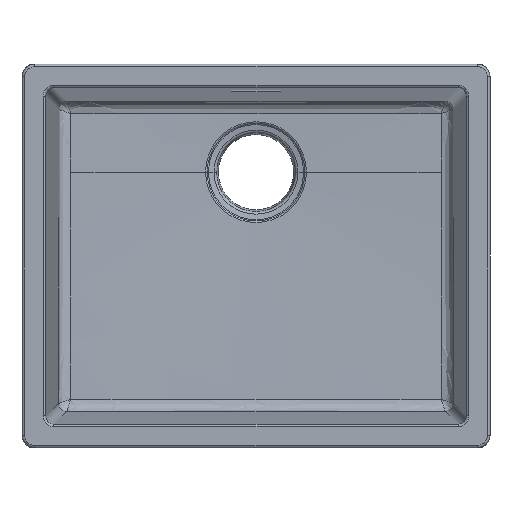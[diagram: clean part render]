
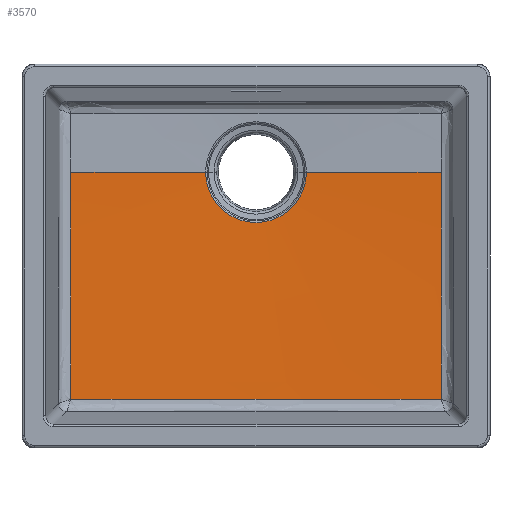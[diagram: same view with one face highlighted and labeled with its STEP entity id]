
A CAD part, top view. The second image highlights one B-rep face of the part: STEP entity #3570.
In plain terms, the highlighted conical face has half-angle 88.2 degrees and reference radius 50 mm.
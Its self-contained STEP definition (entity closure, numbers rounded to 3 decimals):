
#19 = B_SPLINE_CURVE_WITH_KNOTS ( 'NONE', 3,
 ( #7606, #12040, #13712, #4882, #6381, #16492, #9021, #13459, #14945, #13584 ),
 .UNSPECIFIED., .F., .F.,
 ( 4, 2, 2, 2, 4 ),
 ( 0.07, 0.137, 0.205, 0.272, 0.34 ),
 .UNSPECIFIED. ) ;
#621 = VERTEX_POINT ( 'NONE', #10662 ) ;
#794 = FACE_OUTER_BOUND ( 'NONE', #17955, .T. ) ;
#812 = LINE ( 'NONE', #11466, #1746 ) ;
#1033 = CARTESIAN_POINT ( 'NONE',  ( 219.984, -57.642, -187.089 ) ) ;
#1431 = CARTESIAN_POINT ( 'NONE',  ( -91.721, -170.088, -186.625 ) ) ;
#1455 = VERTEX_POINT ( 'NONE', #8321 ) ;
#1503 = EDGE_CURVE ( 'NONE', #1455, #17019, #11625, .T. ) ;
#1645 = DIRECTION ( 'NONE',  ( 1., 0., 0. ) ) ;
#1746 = VECTOR ( 'NONE', #16795, 1000. ) ;
#2058 = AXIS2_PLACEMENT_3D ( 'NONE', #14880, #7604, #1645 ) ;
#2258 = EDGE_CURVE ( 'NONE', #621, #17019, #812, .T. ) ;
#2275 = CARTESIAN_POINT ( 'NONE',  ( 0., 99.94, -193.69 ) ) ;
#2433 = CARTESIAN_POINT ( 'NONE',  ( 220.003, -80.151, -186.652 ) ) ;
#2508 = CARTESIAN_POINT ( 'NONE',  ( 220.081, -147.675, -185.17 ) ) ;
#2537 = ORIENTED_EDGE ( 'NONE', *, *, #2258, .F. ) ;
#2657 = CONICAL_SURFACE ( 'NONE', #2058, 50., 1.539 ) ;
#2721 = CARTESIAN_POINT ( 'NONE',  ( 146.749, -170.114, -185.972 ) ) ;
#2976 = B_SPLINE_CURVE_WITH_KNOTS ( 'NONE', 3,
 ( #10876, #16142, #10087, #1431, #11764, #5629, #8595, #14717, #11563, #5891, #18880, #2721, #4206, #19016 ),
 .UNSPECIFIED., .F., .F.,
 ( 4, 2, 2, 2, 2, 2, 4 ),
 ( 0., 0.11, 0.165, 0.22, 0.275, 0.33, 0.44 ),
 .UNSPECIFIED. ) ;
#3570 = ADVANCED_FACE ( 'NONE', ( #794 ), #2657, .F. ) ;
#3596 = CARTESIAN_POINT ( 'NONE',  ( 219.935, 99.94, -188.66 ) ) ;
#3708 = VERTEX_POINT ( 'NONE', #15235 ) ;
#3993 = CARTESIAN_POINT ( 'NONE',  ( 219.956, -12.622, -187.83 ) ) ;
#4200 = ORIENTED_EDGE ( 'NONE', *, *, #6435, .T. ) ;
#4206 = CARTESIAN_POINT ( 'NONE',  ( 183.432, -170.143, -185.35 ) ) ;
#4371 = EDGE_CURVE ( 'NONE', #17054, #1455, #2976, .T. ) ;
#4882 = CARTESIAN_POINT ( 'NONE',  ( -219.947, 9.891, -188.133 ) ) ;
#5476 = CARTESIAN_POINT ( 'NONE',  ( 219.935, 77.427, -188.66 ) ) ;
#5629 = CARTESIAN_POINT ( 'NONE',  ( -36.69, -170.074, -187.026 ) ) ;
#5891 = CARTESIAN_POINT ( 'NONE',  ( 73.377, -170.082, -186.796 ) ) ;
#6381 = CARTESIAN_POINT ( 'NONE',  ( -219.956, -12.622, -187.83 ) ) ;
#6435 = EDGE_CURVE ( 'NONE', #3708, #10353, #17631, .T. ) ;
#6468 = ORIENTED_EDGE ( 'NONE', *, *, #10902, .T. ) ;
#7604 = DIRECTION ( 'NONE',  ( 0., 0., 1. ) ) ;
#7606 = CARTESIAN_POINT ( 'NONE',  ( -219.935, 99.94, -188.66 ) ) ;
#8321 = CARTESIAN_POINT ( 'NONE',  ( 220.114, -170.182, -184.621 ) ) ;
#8595 = CARTESIAN_POINT ( 'NONE',  ( -18.345, -170.072, -187.086 ) ) ;
#8877 = VECTOR ( 'NONE', #14489, 1000. ) ;
#9021 = CARTESIAN_POINT ( 'NONE',  ( -220.003, -80.151, -186.652 ) ) ;
#9725 = ORIENTED_EDGE ( 'NONE', *, *, #1503, .T. ) ;
#10087 = CARTESIAN_POINT ( 'NONE',  ( -146.749, -170.114, -185.972 ) ) ;
#10353 = VERTEX_POINT ( 'NONE', #17998 ) ;
#10662 = CARTESIAN_POINT ( 'NONE',  ( 59.879, 99.94, -193.69 ) ) ;
#10782 = CIRCLE ( 'NONE', #11213, 59.879 ) ;
#10876 = CARTESIAN_POINT ( 'NONE',  ( -220.114, -170.182, -184.621 ) ) ;
#10902 = EDGE_CURVE ( 'NONE', #10353, #17054, #19, .T. ) ;
#11065 = DIRECTION ( 'NONE',  ( 1., 0., 0. ) ) ;
#11213 = AXIS2_PLACEMENT_3D ( 'NONE', #2275, #15389, #11065 ) ;
#11353 = CARTESIAN_POINT ( 'NONE',  ( 220.114, -170.182, -184.621 ) ) ;
#11466 = CARTESIAN_POINT ( 'NONE',  ( 50., 99.94, -194. ) ) ;
#11563 = CARTESIAN_POINT ( 'NONE',  ( 36.69, -170.074, -187.026 ) ) ;
#11625 = B_SPLINE_CURVE_WITH_KNOTS ( 'NONE', 3,
 ( #11353, #2508, #18653, #2433, #1033, #3993, #14291, #12749, #5476, #15799 ),
 .UNSPECIFIED., .F., .F.,
 ( 4, 2, 2, 2, 4 ),
 ( 0., 0.068, 0.135, 0.203, 0.27 ),
 .UNSPECIFIED. ) ;
#11764 = CARTESIAN_POINT ( 'NONE',  ( -73.377, -170.082, -186.796 ) ) ;
#12040 = CARTESIAN_POINT ( 'NONE',  ( -219.935, 77.427, -188.66 ) ) ;
#12749 = CARTESIAN_POINT ( 'NONE',  ( 219.937, 54.915, -188.549 ) ) ;
#12878 = CARTESIAN_POINT ( 'NONE',  ( -220.114, -170.182, -184.621 ) ) ;
#13459 = CARTESIAN_POINT ( 'NONE',  ( -220.052, -125.168, -185.692 ) ) ;
#13516 = EDGE_CURVE ( 'NONE', #3708, #621, #10782, .T. ) ;
#13584 = CARTESIAN_POINT ( 'NONE',  ( -220.114, -170.182, -184.621 ) ) ;
#13599 = ORIENTED_EDGE ( 'NONE', *, *, #4371, .T. ) ;
#13712 = CARTESIAN_POINT ( 'NONE',  ( -219.937, 54.915, -188.549 ) ) ;
#14291 = CARTESIAN_POINT ( 'NONE',  ( 219.947, 9.891, -188.133 ) ) ;
#14489 = DIRECTION ( 'NONE',  ( -1., 0., 0.031 ) ) ;
#14691 = CARTESIAN_POINT ( 'NONE',  ( -50., 99.94, -194. ) ) ;
#14717 = CARTESIAN_POINT ( 'NONE',  ( 18.345, -170.072, -187.086 ) ) ;
#14880 = CARTESIAN_POINT ( 'NONE',  ( 0., 99.94, -194. ) ) ;
#14945 = CARTESIAN_POINT ( 'NONE',  ( -220.081, -147.675, -185.17 ) ) ;
#15235 = CARTESIAN_POINT ( 'NONE',  ( -59.879, 99.94, -193.69 ) ) ;
#15389 = DIRECTION ( 'NONE',  ( 0., 0., 1. ) ) ;
#15799 = CARTESIAN_POINT ( 'NONE',  ( 219.935, 99.94, -188.66 ) ) ;
#16142 = CARTESIAN_POINT ( 'NONE',  ( -183.432, -170.143, -185.35 ) ) ;
#16492 = CARTESIAN_POINT ( 'NONE',  ( -219.984, -57.642, -187.089 ) ) ;
#16765 = ORIENTED_EDGE ( 'NONE', *, *, #13516, .F. ) ;
#16795 = DIRECTION ( 'NONE',  ( 1., 0., 0.031 ) ) ;
#17019 = VERTEX_POINT ( 'NONE', #3596 ) ;
#17054 = VERTEX_POINT ( 'NONE', #12878 ) ;
#17631 = LINE ( 'NONE', #14691, #8877 ) ;
#17955 = EDGE_LOOP ( 'NONE', ( #16765, #4200, #6468, #13599, #9725, #2537 ) ) ;
#17998 = CARTESIAN_POINT ( 'NONE',  ( -219.935, 99.94, -188.66 ) ) ;
#18653 = CARTESIAN_POINT ( 'NONE',  ( 220.052, -125.168, -185.692 ) ) ;
#18880 = CARTESIAN_POINT ( 'NONE',  ( 91.721, -170.088, -186.625 ) ) ;
#19016 = CARTESIAN_POINT ( 'NONE',  ( 220.114, -170.182, -184.621 ) ) ;
